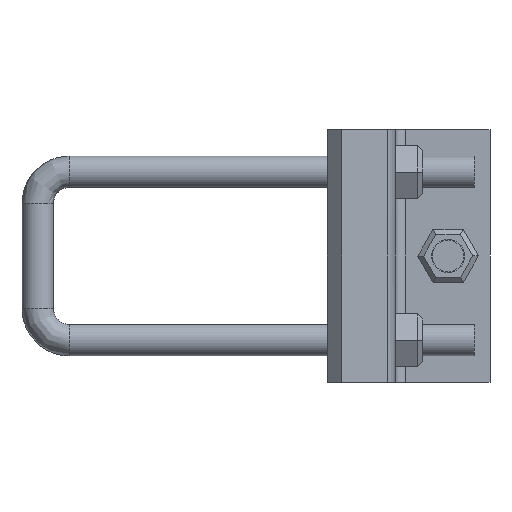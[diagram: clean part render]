
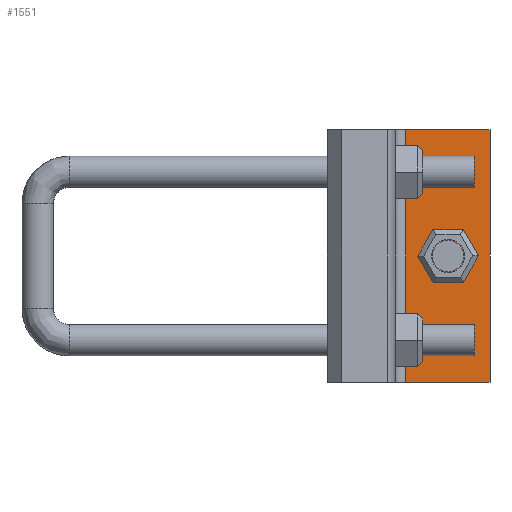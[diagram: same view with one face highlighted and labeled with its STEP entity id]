
A CAD part, left-side view. The second image highlights one B-rep face of the part: STEP entity #1551.
In plain terms, the highlighted planar face has unit normal (-1, 0, 0).
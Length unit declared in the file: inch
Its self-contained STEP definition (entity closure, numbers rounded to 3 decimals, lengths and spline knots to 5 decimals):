
#687=EDGE_CURVE('',#1833,#1834,#1835,.T.);
#949=EDGE_CURVE('',#1834,#2261,#2262,.T.);
#967=EDGE_CURVE('',#2290,#1833,#2291,.T.);
#1353=EDGE_CURVE('',#2290,#2261,#2813,.T.);
#1551=ADVANCED_FACE('',(#3050,#3051),#3052,.T.);
#1833=VERTEX_POINT('',#3428);
#1834=VERTEX_POINT('',#3429);
#1835=LINE('',#3430,#3431);
#2261=VERTEX_POINT('',#4173);
#2262=LINE('',#4174,#4175);
#2290=VERTEX_POINT('',#4216);
#2291=LINE('',#4217,#4218);
#2813=LINE('',#5344,#5345);
#3050=FACE_OUTER_BOUND('',#5758,.T.);
#3051=FACE_BOUND('',#5759,.T.);
#3052=PLANE('',#5760);
#3428=CARTESIAN_POINT('',(0.,0.0,0.));
#3429=CARTESIAN_POINT('',(0.,0.0,3.0));
#3430=CARTESIAN_POINT('',(0.,0.0,0.));
#3431=VECTOR('',#6429,1.);
#4173=CARTESIAN_POINT('',(0.,1.0,3.0));
#4174=CARTESIAN_POINT('',(0.,1.0,3.0));
#4175=VECTOR('',#6871,1.);
#4216=CARTESIAN_POINT('',(0.,1.0,0.));
#4217=CARTESIAN_POINT('',(0.,1.0,0.));
#4218=VECTOR('',#6916,1.0);
#5344=CARTESIAN_POINT('',(0.,1.0,0.));
#5345=VECTOR('',#7556,1.);
#5758=EDGE_LOOP('',(#7832,#7833,#7834,#7835));
#5759=EDGE_LOOP('',(#7836,#7837));
#5760=AXIS2_PLACEMENT_3D('',#7838,#7839,#7840);
#6429=DIRECTION('',(0.0,0.0,1.0));
#6871=DIRECTION('',(0.0,1.0,0.0));
#6916=DIRECTION('',(0.0,-1.0,0.0));
#7556=DIRECTION('',(0.0,0.0,1.0));
#7832=ORIENTED_EDGE('',*,*,#949,.T.);
#7833=ORIENTED_EDGE('',*,*,#1353,.F.);
#7834=ORIENTED_EDGE('',*,*,#967,.T.);
#7835=ORIENTED_EDGE('',*,*,#687,.T.);
#7836=ORIENTED_EDGE('',*,*,#8271,.F.);
#7837=ORIENTED_EDGE('',*,*,#8247,.F.);
#7838=CARTESIAN_POINT('',(0.,0.5,0.));
#7839=DIRECTION('',(-1.0,0.0,0.0));
#7840=DIRECTION('',(0.0,-1.0,0.0));
#8247=EDGE_CURVE('',#8515,#8517,#8518,.T.);
#8271=EDGE_CURVE('',#8517,#8515,#8546,.T.);
#8515=VERTEX_POINT('',#8822);
#8517=VERTEX_POINT('',#8825);
#8518=CIRCLE('',#8826,0.1875);
#8546=CIRCLE('',#8859,0.1875);
#8822=CARTESIAN_POINT('',(0.,0.68737,1.5));
#8825=CARTESIAN_POINT('',(0.,0.31237,1.5));
#8826=AXIS2_PLACEMENT_3D('',#9059,#9060,#9061);
#8859=AXIS2_PLACEMENT_3D('',#9076,#9077,#9078);
#9059=CARTESIAN_POINT('',(0.,0.49987,1.5));
#9060=DIRECTION('',(-1.0,0.0,0.0));
#9061=DIRECTION('',(0.0,1.0,0.0));
#9076=CARTESIAN_POINT('',(0.,0.49987,1.5));
#9077=DIRECTION('',(-1.0,0.0,0.0));
#9078=DIRECTION('',(0.0,1.0,0.0));
